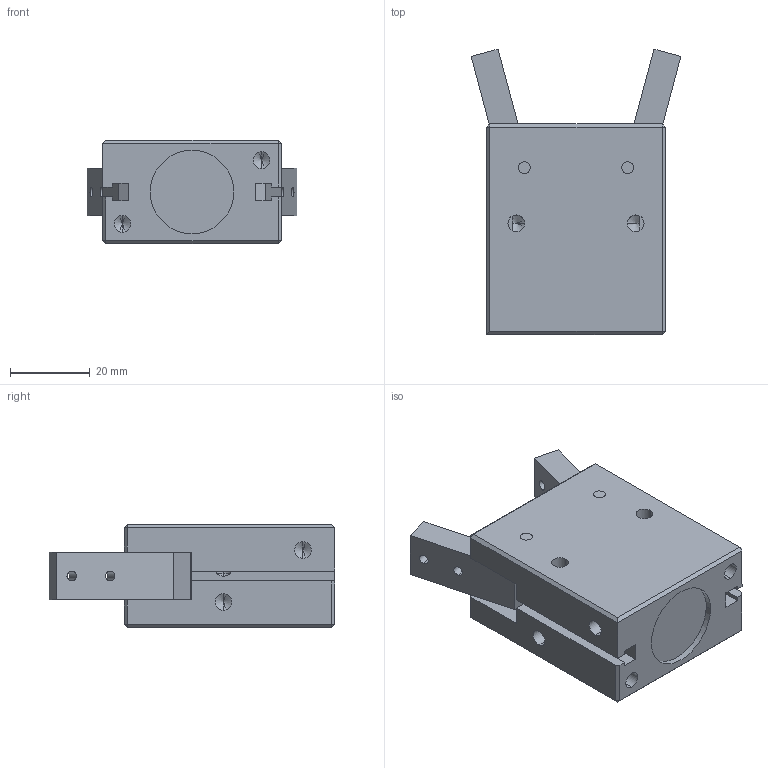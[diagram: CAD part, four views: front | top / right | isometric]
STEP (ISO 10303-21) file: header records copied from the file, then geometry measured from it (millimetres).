
FILE_DESCRIPTION (( 'STEP AP203' ), '1' );
FILE_NAME ('GDS.20-OPEN.STEP', '2011-10-20T11:49:12', ( 'Christophe Gaillard' ), ( 'SGA' ), 'SwSTEP 2.0', 'SolidWorks 2010', '' );
FILE_SCHEMA (( 'CONFIG_CONTROL_DESIGN' ));
Length unit declared in the file: millimetre
Products named in the file (6): GDS.20-OPEN; mors.20; Pièce9; CORPS.GDS20; Pièce67; Pièce7
Assembly tree (8 placements, depth 2):
  GDS.20-OPEN
    mors.20  x2
    Pièce9  x2
    Pièce67
    Pièce7  x2
    CORPS.GDS20
Bounding box: 52.72 x 71.81 x 26 mm (x, y, z)
Volume: 57069.3 mm3; surface area: 20061.8 mm2
Topology: 8 solids, 8 shells, 580 faces, 1545 edges, 1010 vertices
Faces by surface type: plane 298, bspline 218, cylinder 48, cone 16
Entity records: 32829 total; most frequent: CARTESIAN_POINT 19806, ORIENTED_EDGE 2926, DIRECTION 1795, EDGE_CURVE 1463, VERTEX_POINT 966, LINE 941, VECTOR 941, EDGE_LOOP 615
